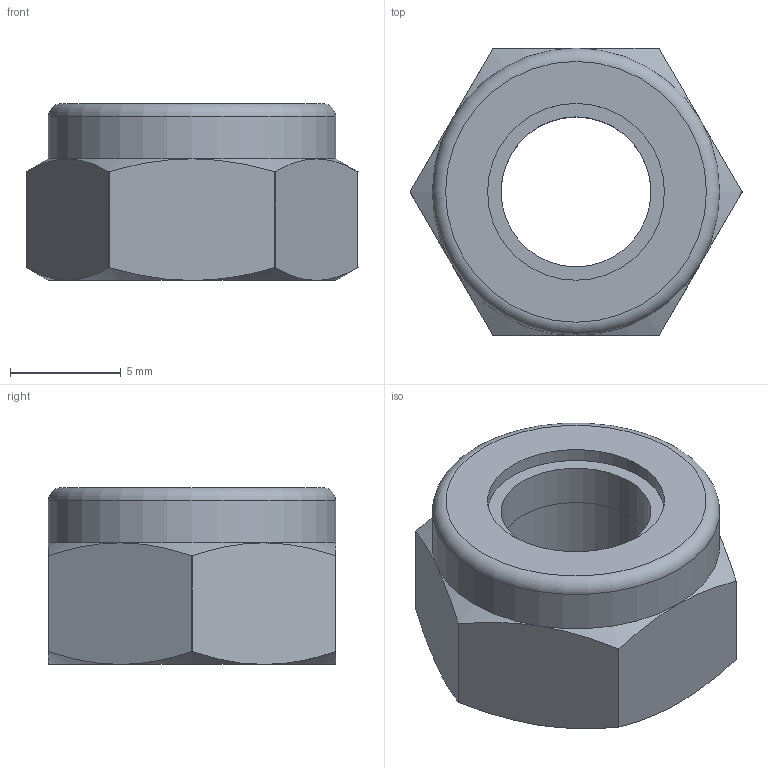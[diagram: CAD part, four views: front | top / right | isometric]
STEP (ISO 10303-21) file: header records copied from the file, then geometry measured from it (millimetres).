
FILE_DESCRIPTION(/* description */ (''),/* implementation_level */ '2;1');
FILE_NAME(/* name */ 'M8 Nyloc Nut - DIN 985 - A2 Stainless Steel.step',/* time_stamp */ '2024-06-27T11:46:41+03:00',/* author */ (''),/* organization */ (''),/* preprocessor_version */ 'ST-DEVELOPER v20',/* originating_system */ 'Autodesk Translation Framework v13.14.0.145',/* authorisation */ '');
FILE_SCHEMA (('AUTOMOTIVE_DESIGN { 1 0 10303 214 3 1 1 }'));
Length unit declared in the file: millimetre
Products named in the file (2): M8 Nyloc Nut - DIN 985 - A2 Stainless Steel; Hexagon Nut DIN 985 - M8 Stainless Steel A2 Plain v1
Assembly tree (1 placements, depth 2):
  M8 Nyloc Nut - DIN 985 - A2 Stainless Steel
    Hexagon Nut DIN 985 - M8 Stainless Steel A2 Plain v1
Bounding box: 15.02 x 13 x 8 mm (x, y, z)
Volume: 831.6 mm3; surface area: 1124.2 mm2
Topology: 8 solids, 8 shells, 61 faces, 116 edges, 73 vertices
Faces by surface type: plane 24, cone 24, cylinder 12, torus 1
Full cylindrical faces by diameter (mm): 6.779 x2, 8 x1, 11.799 x2, 13 x1
Entity records: 1568 total; most frequent: CARTESIAN_POINT 301, DIRECTION 258, ORIENTED_EDGE 232, EDGE_CURVE 116, AXIS2_PLACEMENT_3D 102, VERTEX_POINT 73, EDGE_LOOP 67, FACE_OUTER_BOUND 61
